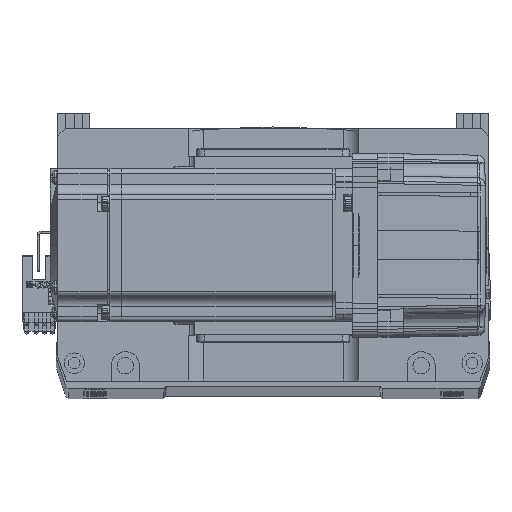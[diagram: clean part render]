
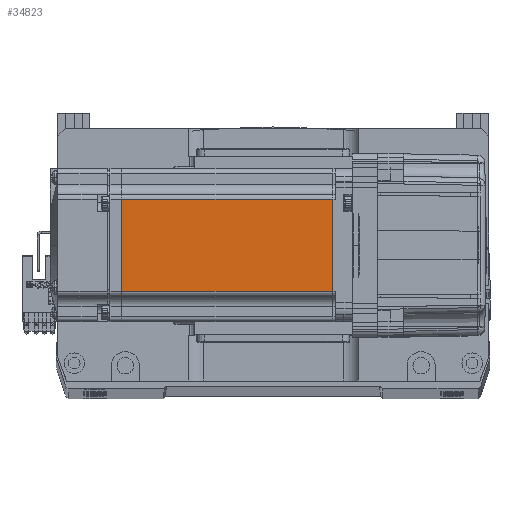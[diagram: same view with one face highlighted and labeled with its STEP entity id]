
A CAD part, top view. The second image highlights one B-rep face of the part: STEP entity #34823.
In plain terms, the highlighted planar face has unit normal (0, 0, 1).
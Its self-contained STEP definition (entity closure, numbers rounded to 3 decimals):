
#352 = VERTEX_POINT ( 'NONE', #2423 ) ;
#549 = LINE ( 'NONE', #55853, #38989 ) ;
#593 = VERTEX_POINT ( 'NONE', #57506 ) ;
#2423 = CARTESIAN_POINT ( 'NONE',  ( -7.75, 18., 30. ) ) ;
#3936 = DIRECTION ( 'NONE',  ( -1., 0., 0. ) ) ;
#7538 = CARTESIAN_POINT ( 'NONE',  ( -90.45, 18., 30. ) ) ;
#12079 = EDGE_CURVE ( 'NONE', #352, #65517, #61813, .T. ) ;
#13261 = FACE_OUTER_BOUND ( 'NONE', #55130, .T. ) ;
#13988 = ORIENTED_EDGE ( 'NONE', *, *, #19418, .F. ) ;
#14690 = DIRECTION ( 'NONE',  ( -1., 0., 0. ) ) ;
#15285 = ORIENTED_EDGE ( 'NONE', *, *, #12079, .T. ) ;
#19418 = EDGE_CURVE ( 'NONE', #352, #38312, #39388, .T. ) ;
#20497 = CARTESIAN_POINT ( 'NONE',  ( -7.75, 0., 30. ) ) ;
#20842 = DIRECTION ( 'NONE',  ( 0., -1., 0. ) ) ;
#25019 = VECTOR ( 'NONE', #14690, 1000. ) ;
#25198 = CARTESIAN_POINT ( 'NONE',  ( -6.5, -18., 30. ) ) ;
#27768 = ORIENTED_EDGE ( 'NONE', *, *, #57608, .F. ) ;
#29983 = DIRECTION ( 'NONE',  ( 0., 0., 1. ) ) ;
#34823 = ADVANCED_FACE ( 'NONE', ( #13261 ), #35194, .T. ) ;
#35194 = PLANE ( 'NONE',  #48809 ) ;
#36122 = VECTOR ( 'NONE', #62334, 1000. ) ;
#38312 = VERTEX_POINT ( 'NONE', #40925 ) ;
#38989 = VECTOR ( 'NONE', #20842, 1000. ) ;
#39388 = LINE ( 'NONE', #20497, #36122 ) ;
#40758 = CARTESIAN_POINT ( 'NONE',  ( -6.5, 18., 30. ) ) ;
#40925 = CARTESIAN_POINT ( 'NONE',  ( -7.75, -18., 30. ) ) ;
#48809 = AXIS2_PLACEMENT_3D ( 'NONE', #61250, #29983, #66501 ) ;
#50762 = ORIENTED_EDGE ( 'NONE', *, *, #54682, .T. ) ;
#54682 = EDGE_CURVE ( 'NONE', #65517, #593, #549, .T. ) ;
#55130 = EDGE_LOOP ( 'NONE', ( #13988, #15285, #50762, #27768 ) ) ;
#55853 = CARTESIAN_POINT ( 'NONE',  ( -90.45, 0., 30. ) ) ;
#57506 = CARTESIAN_POINT ( 'NONE',  ( -90.45, -18., 30. ) ) ;
#57608 = EDGE_CURVE ( 'NONE', #38312, #593, #64719, .T. ) ;
#58187 = VECTOR ( 'NONE', #3936, 1000. ) ;
#61250 = CARTESIAN_POINT ( 'NONE',  ( -6.5, -25., 30. ) ) ;
#61813 = LINE ( 'NONE', #40758, #25019 ) ;
#62334 = DIRECTION ( 'NONE',  ( 0., -1., 0. ) ) ;
#64719 = LINE ( 'NONE', #25198, #58187 ) ;
#65517 = VERTEX_POINT ( 'NONE', #7538 ) ;
#66501 = DIRECTION ( 'NONE',  ( 1., 0., 0. ) ) ;
